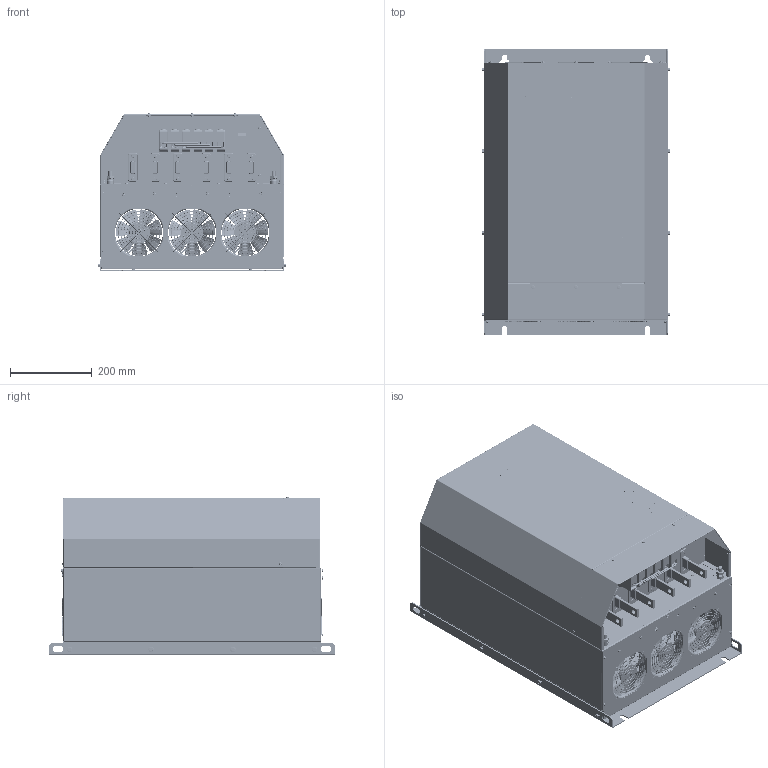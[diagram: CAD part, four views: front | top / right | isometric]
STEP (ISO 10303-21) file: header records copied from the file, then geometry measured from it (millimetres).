
FILE_DESCRIPTION(/* description */ (''),/* implementation_level */ '2;1');
FILE_NAME(/* name */ 'C:\Users\Erika.Jenzer\OneDrive - Schaffner EMV AG\Desktop\Neuer Ordner (2)\Plutus Reactors purchasing\CUSTOMER FS F IP20.stp',/* time_stamp */ '2023-12-07T08:39:43+01:00',/* author */ ('erika.jenzer'),/* organization */ (''),/* preprocessor_version */ 'ST-DEVELOPER v18.1',/* originating_system */ 'Autodesk Inventor 2020',/* authorisation */ '');
FILE_SCHEMA (('AUTOMOTIVE_DESIGN { 1 0 10303 214 3 1 1 }'));
Products named in the file (1): CUSTOMER FS F IP20
Bounding box: 459.59 x 700 x 389.43 mm (x, y, z)
Volume: 45322 mm3; surface area: 3506375.7 mm2
Topology: 51 solids, 55 shells, 7399 faces, 19258 edges, 12562 vertices
Faces by surface type: plane 4362, cylinder 1464, bspline 915, cone 483, torus 173, sphere 2
Full cylindrical faces by diameter (mm): 0.8 x18, 1 x15, 1.3 x18, 2 x5, 2.5 x18, 2.8 x6, 3 x15, 3.2 x5, 3.3 x39, 3.4 x5, 3.5 x4, 3.7 x12, 4 x109, 4.1 x18, 4.3 x26, 4.7 x6, 5 x7, 5.2 x5, 5.4 x3, 5.5 x24, 6 x19, 6.5 x11, 6.8 x6, 7 x2, 7.9 x13, 8 x26, 8.5 x6, 8.7 x6, 9 x2, 9.188 x2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
Entity records: 290223 total; most frequent: CARTESIAN_POINT 105486, ORIENTED_EDGE 38716, DIRECTION 34689, EDGE_CURVE 19358, VERTEX_POINT 12616, AXIS2_PLACEMENT_3D 11633, LINE 11423, VECTOR 11423
